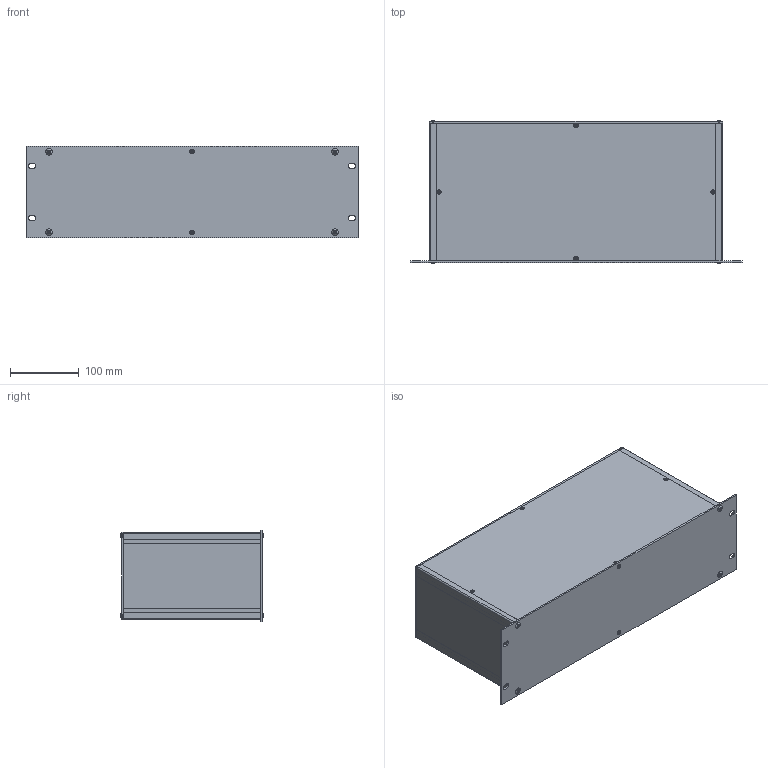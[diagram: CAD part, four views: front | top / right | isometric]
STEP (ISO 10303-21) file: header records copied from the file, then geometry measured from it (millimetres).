
FILE_DESCRIPTION(/* description */ (''),/* implementation_level */ '2;1');
FILE_NAME(/* name */ '//diskstation/Kunden/Gehäuse/Gehäuse/3HE/step/Zoll 3HE Rack Gehäuse Tiefe-200.step',/* time_stamp */ '2022-02-17T15:45:11+01:00',/* author */ (''),/* organization */ (''),/* preprocessor_version */ 'ST-DEVELOPER v18.1',/* originating_system */ 'Autodesk Translation Framework v10.10.0.1391',/* authorisation */ '');
FILE_SCHEMA (('AUTOMOTIVE_DESIGN { 1 0 10303 214 3 1 1 }'));
Length unit declared in the file: millimetre
Products named in the file (28): 3HE Gehäuse mit parametern; Gehäuse; Gehäuseprofil 1 unten links; Gehäuseprofil 2 oben rechts; Gehäuseprofil 1 unten rechts; Gehäuseprofil 2 oben links; Rückplatte; Deckel; Seitenteil links; Seitenteil rechts; Bodenplatte; Montageklotz Front/Deckel; Montageklotz Front/Boden; Montageklotz Rück/Deckel; Montageklotz Rück/Boden; Gewindestreifen; Frontplatte; Schrauben M5; Schraube Front; Schraube Front (1); Schraube Front (2); Schraube Front (3); Schraube Rück (1); Schraube Rück; Schraube Rück (2); Schraube Rück (3); Schrauben M3; HI_Senkschraube DIN 965 A v2 M3x5 24677.030.005(High)
Assembly tree (37 placements, depth 3):
  3HE Gehäuse mit parametern
    Gehäuse
      Gehäuseprofil 1 unten links
      Gehäuseprofil 2 oben rechts
      Gehäuseprofil 1 unten rechts
      Gehäuseprofil 2 oben links
      Rückplatte
      Deckel
      Seitenteil links
      Seitenteil rechts
      Bodenplatte
      Montageklotz Front/Deckel
      Montageklotz Front/Boden
      Montageklotz Rück/Deckel
      Montageklotz Rück/Boden
      Gewindestreifen  x2
    Frontplatte
    Schrauben M5
      Schraube Front
      Schraube Front (1)
      Schraube Front (2)
      Schraube Front (3)
      Schraube Rück (1)
      Schraube Rück
      Schraube Rück (2)
      Schraube Rück (3)
    Schrauben M3
      HI_Senkschraube DIN 965 A v2 M3x5 24677.030.005(High)  x10
Bounding box: 483 x 208.2 x 132.5 mm (x, y, z)
Volume: 850851.9 mm3; surface area: 747708.1 mm2
Topology: 34 solids, 34 shells, 834 faces, 2016 edges, 1250 vertices
Faces by surface type: plane 342, cylinder 312, cone 164, torus 8, bspline 8
Full cylindrical faces by diameter (mm): 2.529 x70, 3 x10, 3.2 x10, 4.234 x40, 5 x8, 5.2 x4, 5.3 x8, 5.6 x10, 9.5 x8
Entity records: 16455 total; most frequent: CARTESIAN_POINT 3018, DIRECTION 2750, ORIENTED_EDGE 2430, EDGE_CURVE 1215, AXIS2_PLACEMENT_3D 1030, VERTEX_POINT 758, EDGE_LOOP 701, LINE 690
